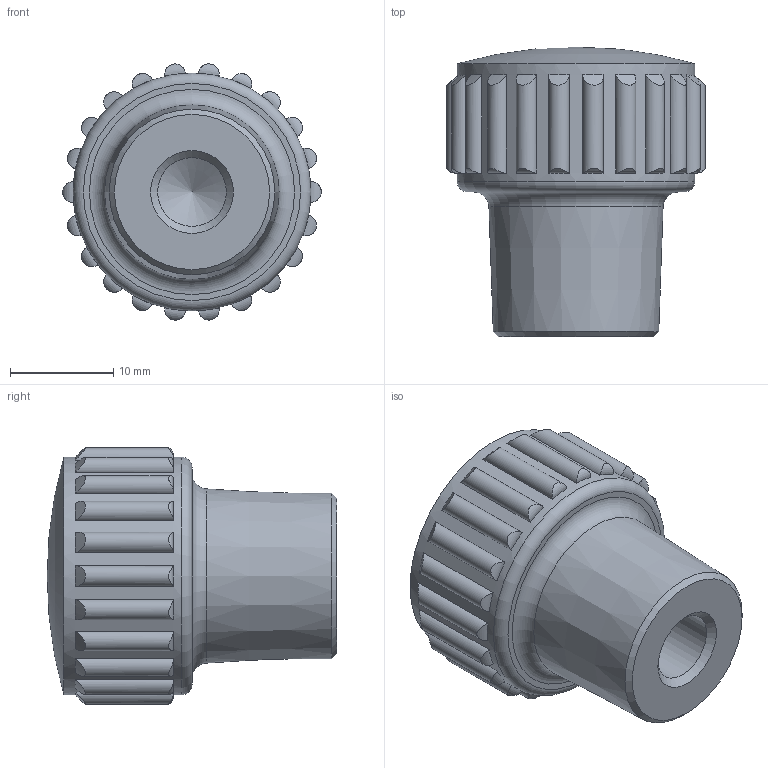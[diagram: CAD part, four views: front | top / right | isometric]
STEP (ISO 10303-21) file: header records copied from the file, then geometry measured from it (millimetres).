
FILE_DESCRIPTION( ( 'STEP AP203' ), '1' );
FILE_NAME( 'C:/Temp/Ganter_Step_05_03_2020/data/2_2/gn_530_1/Knurled nut GN 530.1-25-M8-WS.stp', '2020-03-05T12:34:23', ( 'License CC BY-ND 4.0' ), ( 'CADENAS' ), ' ', 'PARTsolutions', ' ' );
FILE_SCHEMA( ( 'CONFIG_CONTROL_DESIGN' ) );
Length unit declared in the file: millimetre
Products named in the file (1): _Knurled nut GN 530.1-25-M8-WS
Bounding box: 25 x 28 x 24.77 mm (x, y, z)
Volume: 8215.4 mm3; surface area: 2967.1 mm2
Topology: 1 solids, 1 shells, 77 faces, 156 edges, 102 vertices
Faces by surface type: cone 26, cylinder 24, torus 24, plane 2, sphere 1
Full cylindrical faces by diameter (mm): 6.647 x1, 23 x1
Entity records: 2686 total; most frequent: CARTESIAN_POINT 1112, DIRECTION 308, ORIENTED_EDGE 284, EDGE_CURVE 142, AXIS2_PLACEMENT_3D 132, EDGE_LOOP 108, VERTEX_POINT 100, FACE_OUTER_BOUND 81
